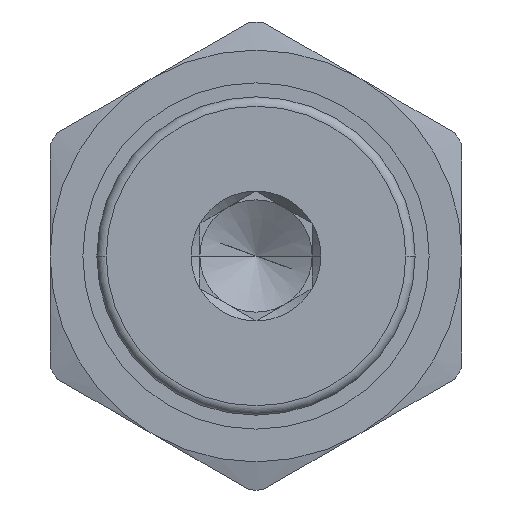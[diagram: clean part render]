
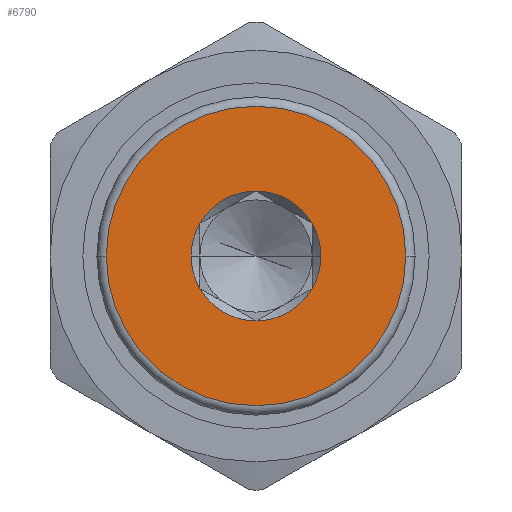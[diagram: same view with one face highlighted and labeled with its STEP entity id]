
A CAD part, left-side view. The second image highlights one B-rep face of the part: STEP entity #6790.
In plain terms, the highlighted planar face has unit normal (-1, 0, 0) as drawn and (0, 1, 0) by its records, which use the part's own axes.
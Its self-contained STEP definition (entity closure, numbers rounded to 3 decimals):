
#5953=CARTESIAN_POINT('',(0.,5.,0.));
#5954=DIRECTION('',(0.,1.,0.));
#5955=DIRECTION('',(-1.,0.,0.));
#5956=AXIS2_PLACEMENT_3D('',#5953,#5954,#5955);
#5969=CARTESIAN_POINT('',(0.,5.,0.));
#5970=DIRECTION('',(0.,-1.,0.));
#5971=DIRECTION('',(-1.,0.,0.));
#5972=AXIS2_PLACEMENT_3D('',#5969,#5970,#5971);
#5977=CARTESIAN_POINT('',(0.,5.,0.));
#5978=DIRECTION('',(0.,-1.,0.));
#5979=DIRECTION('',(-1.,0.,0.));
#5980=AXIS2_PLACEMENT_3D('',#5977,#5978,#5979);
#5985=CARTESIAN_POINT('',(0.,5.,0.));
#5986=DIRECTION('',(0.,1.,0.));
#5987=DIRECTION('',(-1.,0.,0.));
#5988=AXIS2_PLACEMENT_3D('',#5985,#5986,#5987);
#6595=CARTESIAN_POINT('',(-8.,5.,0.));
#6597=VERTEX_POINT('',#6595);
#6617=CARTESIAN_POINT('',(8.,5.,0.));
#6619=VERTEX_POINT('',#6617);
#6667=CARTESIAN_POINT('',(-3.465,5.,0.));
#6668=CARTESIAN_POINT('',(3.465,5.,0.));
#6669=VERTEX_POINT('',#6667);
#6670=VERTEX_POINT('',#6668);
#6775=CARTESIAN_POINT('',(0.,5.,0.));
#6776=DIRECTION('',(0.,-1.,0.));
#6777=DIRECTION('',(-1.,0.,0.));
#6778=AXIS2_PLACEMENT_3D('',#6775,#6776,#6777);
#6779=PLANE('',#6778);
#6780=ORIENTED_EDGE('',*,*,#6754,.F.);
#6781=ORIENTED_EDGE('',*,*,#6770,.T.);
#6782=EDGE_LOOP('',(#6780,#6781));
#6783=FACE_OUTER_BOUND('',#6782,.F.);
#6785=ORIENTED_EDGE('',*,*,#6784,.F.);
#6787=ORIENTED_EDGE('',*,*,#6786,.T.);
#6788=EDGE_LOOP('',(#6785,#6787));
#6789=FACE_BOUND('',#6788,.F.);
#5957=CIRCLE('',#5956,8.);
#5973=CIRCLE('',#5972,8.);
#5981=CIRCLE('',#5980,3.465);
#5989=CIRCLE('',#5988,3.465);
#6754=EDGE_CURVE('',#6597,#6619,#5957,.T.);
#6770=EDGE_CURVE('',#6597,#6619,#5973,.T.);
#6784=EDGE_CURVE('',#6669,#6670,#5981,.T.);
#6786=EDGE_CURVE('',#6669,#6670,#5989,.T.);
#6790=ADVANCED_FACE('',(#6783,#6789),#6779,.F.);
